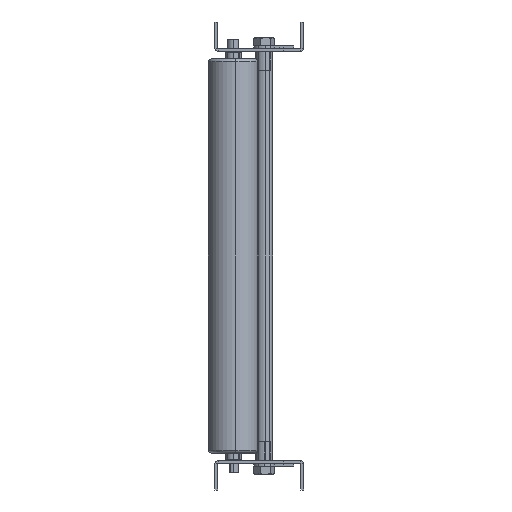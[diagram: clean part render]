
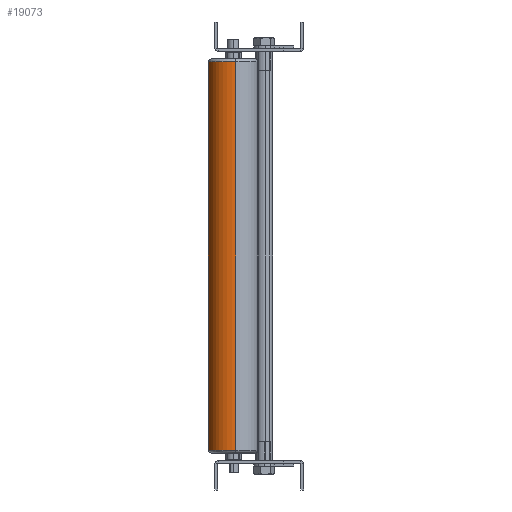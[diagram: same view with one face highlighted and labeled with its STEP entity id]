
A CAD part, left-side view. The second image highlights one B-rep face of the part: STEP entity #19073.
In plain terms, the highlighted cylindrical face has radius 25.15 mm (diameter 50.3 mm), a partial arc.
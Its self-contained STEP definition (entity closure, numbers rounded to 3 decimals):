
#823 = DIRECTION ( 'NONE',  ( -0.994, -0.109, 0. ) ) ;
#1161 = VERTEX_POINT ( 'NONE', #14727 ) ;
#1823 = ORIENTED_EDGE ( 'NONE', *, *, #29717, .T. ) ;
#2590 = CARTESIAN_POINT ( 'NONE',  ( -1548.777, 93.751, -24. ) ) ;
#3136 = DIRECTION ( 'NONE',  ( 0., 0., 1. ) ) ;
#3243 = ORIENTED_EDGE ( 'NONE', *, *, #9092, .F. ) ;
#5165 = CARTESIAN_POINT ( 'NONE',  ( -1498.775, 99.227, 326.541 ) ) ;
#9051 = CARTESIAN_POINT ( 'NONE',  ( -1523.776, 96.489, -418. ) ) ;
#9092 = EDGE_CURVE ( 'NONE', #32774, #13330, #33684, .T. ) ;
#10700 = AXIS2_PLACEMENT_3D ( 'NONE', #15540, #11958, #26740 ) ;
#10769 = AXIS2_PLACEMENT_3D ( 'NONE', #9051, #3136, #14724 ) ;
#11269 = AXIS2_PLACEMENT_3D ( 'NONE', #31584, #31399, #823 ) ;
#11392 = CIRCLE ( 'NONE', #10769, 25.15 ) ;
#11958 = DIRECTION ( 'NONE',  ( 0., 0., 1. ) ) ;
#12324 = CYLINDRICAL_SURFACE ( 'NONE', #10700, 25.15 ) ;
#13330 = VERTEX_POINT ( 'NONE', #32334 ) ;
#14724 = DIRECTION ( 'NONE',  ( 0.994, 0.109, 0. ) ) ;
#14727 = CARTESIAN_POINT ( 'NONE',  ( -1548.777, 93.751, -418. ) ) ;
#14985 = FACE_OUTER_BOUND ( 'NONE', #26706, .T. ) ;
#15540 = CARTESIAN_POINT ( 'NONE',  ( -1523.776, 96.489, 326.541 ) ) ;
#15686 = DIRECTION ( 'NONE',  ( 0., 0., 1. ) ) ;
#17301 = CIRCLE ( 'NONE', #11269, 25.15 ) ;
#18651 = EDGE_CURVE ( 'NONE', #36988, #13330, #17301, .T. ) ;
#19043 = DIRECTION ( 'NONE',  ( 0., 0., 1. ) ) ;
#19073 = ADVANCED_FACE ( 'NONE', ( #14985 ), #12324, .T. ) ;
#21999 = VECTOR ( 'NONE', #19043, 1000. ) ;
#26265 = ORIENTED_EDGE ( 'NONE', *, *, #35588, .T. ) ;
#26706 = EDGE_LOOP ( 'NONE', ( #26265, #1823, #29503, #3243 ) ) ;
#26740 = DIRECTION ( 'NONE',  ( 0.994, 0.109, 0. ) ) ;
#26870 = LINE ( 'NONE', #27432, #36809 ) ;
#27432 = CARTESIAN_POINT ( 'NONE',  ( -1548.777, 93.751, 326.541 ) ) ;
#29503 = ORIENTED_EDGE ( 'NONE', *, *, #18651, .T. ) ;
#29717 = EDGE_CURVE ( 'NONE', #1161, #36988, #26870, .T. ) ;
#31399 = DIRECTION ( 'NONE',  ( 0., 0., -1. ) ) ;
#31584 = CARTESIAN_POINT ( 'NONE',  ( -1523.776, 96.489, -24. ) ) ;
#32334 = CARTESIAN_POINT ( 'NONE',  ( -1498.775, 99.227, -24. ) ) ;
#32774 = VERTEX_POINT ( 'NONE', #34906 ) ;
#33684 = LINE ( 'NONE', #5165, #21999 ) ;
#34906 = CARTESIAN_POINT ( 'NONE',  ( -1498.775, 99.227, -418. ) ) ;
#35588 = EDGE_CURVE ( 'NONE', #32774, #1161, #11392, .T. ) ;
#36809 = VECTOR ( 'NONE', #15686, 1000. ) ;
#36988 = VERTEX_POINT ( 'NONE', #2590 ) ;
